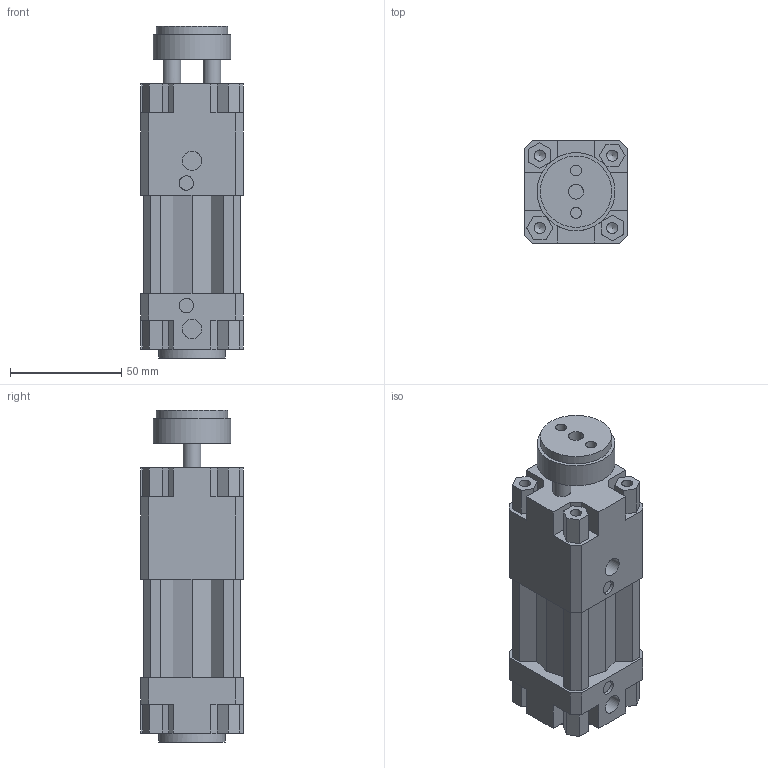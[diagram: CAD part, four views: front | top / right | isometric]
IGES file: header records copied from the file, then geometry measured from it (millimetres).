
Global section: file name: 134#_032_0000_01; native system: Autodesk Inventor 2014; preprocessor: unknown; author: A. Manieri; date: 20161006.164153; units: millimetre
Bounding box: 46 x 46 x 149 mm (x, y, z)
Volume: 221956.2 mm3; surface area: 55035.9 mm2
Topology: 2 solids, 2 shells, 187 faces, 507 edges, 343 vertices
Faces by surface type: bspline 187
